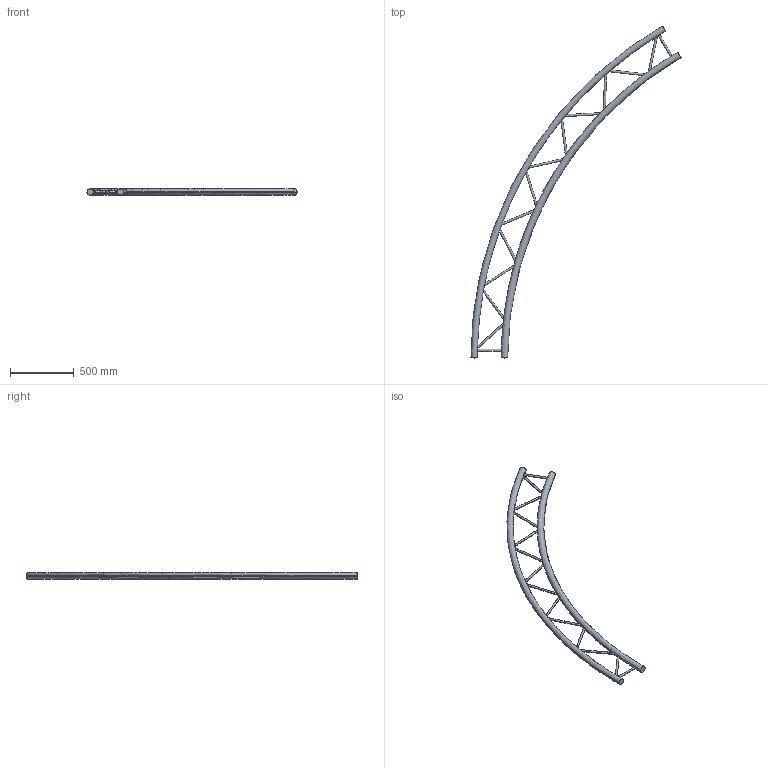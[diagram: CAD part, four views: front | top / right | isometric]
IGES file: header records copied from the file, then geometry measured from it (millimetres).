
Start section: SolidWorks IGES file using analytic representation for surfaces
Global section: file name: K:\BIBLIO\asd_biblio\EX290\Cercles\EXC290H\EXC29600H\EXC29600H.IGS; native system: SolidWorks 2009; preprocessor: SolidWorks 2009; author: des3; date: 091026.103644; units: millimetre
Bounding box: 1643.5 x 2598.08 x 50 mm (x, y, z)
Surface area: 1120695.3 mm2 (no closed solid volume)
Topology: 0 solids, 0 shells, 36 faces, 2500 edges, 2500 vertices
Faces by surface type: revolution 28, bspline 8
